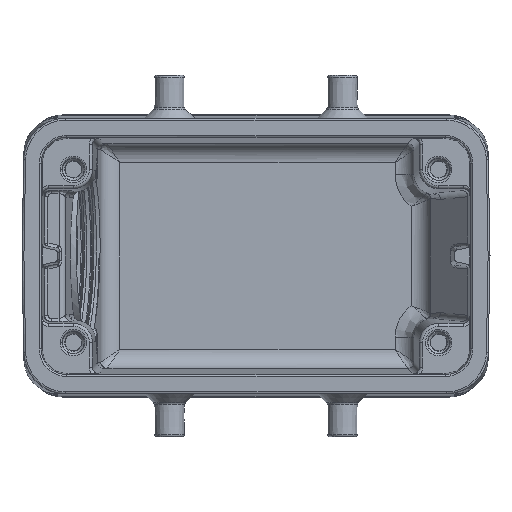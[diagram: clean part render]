
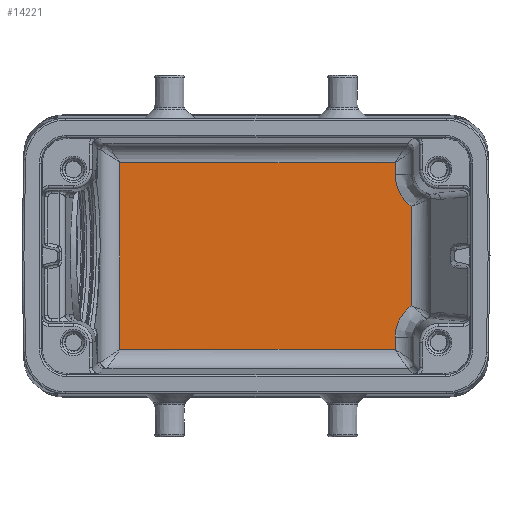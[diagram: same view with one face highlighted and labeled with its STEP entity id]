
A CAD part, front view. The second image highlights one B-rep face of the part: STEP entity #14221.
In plain terms, the highlighted planar face has unit normal (0, -1, 0).
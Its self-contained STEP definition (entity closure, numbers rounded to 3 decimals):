
#341 = FACE_OUTER_BOUND ( 'NONE', #24228, .T. ) ;
#616 = B_SPLINE_CURVE_WITH_KNOTS ( 'NONE', 3,
 ( #16051, #22764, #11942, #13968 ),
 .UNSPECIFIED., .F., .F.,
 ( 4, 4 ),
 ( 0., 1. ),
 .UNSPECIFIED. ) ;
#1135 = CARTESIAN_POINT ( 'NONE',  ( 22.389, 97.598, -9.882 ) ) ;
#1275 = B_SPLINE_CURVE_WITH_KNOTS ( 'NONE', 3,
 ( #25234, #12237, #3387, #27427, #25326, #14452, #12150, #18806, #12337, #27513, #14541, #1135, #22889, #9869, #27252, #14277, #27343 ),
 .UNSPECIFIED., .F., .F.,
 ( 4, 2, 2, 2, 1, 2, 2, 2, 4 ),
 ( 0., 0.25, 0.375, 0.437, 0.469, 0.484, 0.5, 0.75, 1. ),
 .UNSPECIFIED. ) ;
#1745 = VERTEX_POINT ( 'NONE', #15512 ) ;
#2245 = DIRECTION ( 'NONE',  ( 1., 0., 0. ) ) ;
#2505 = ORIENTED_EDGE ( 'NONE', *, *, #19645, .T. ) ;
#2741 = ORIENTED_EDGE ( 'NONE', *, *, #14825, .F. ) ;
#3382 = LINE ( 'NONE', #19654, #20747 ) ;
#3387 = CARTESIAN_POINT ( 'NONE',  ( 23.668, 97.598, -8.214 ) ) ;
#3503 = CARTESIAN_POINT ( 'NONE',  ( 22.287, 97.598, 10.083 ) ) ;
#3651 = CARTESIAN_POINT ( 'NONE',  ( 21.691, 97.598, 0. ) ) ;
#3658 = CARTESIAN_POINT ( 'NONE',  ( -21.227, 97.598, 0. ) ) ;
#3827 = VERTEX_POINT ( 'NONE', #27179 ) ;
#4092 = EDGE_CURVE ( 'NONE', #24298, #5823, #27121, .T. ) ;
#4372 = AXIS2_PLACEMENT_3D ( 'NONE', #20224, #9391, #24376 ) ;
#4680 = CARTESIAN_POINT ( 'NONE',  ( -21.227, 97.598, 14.564 ) ) ;
#4731 = VERTEX_POINT ( 'NONE', #21996 ) ;
#5387 = ORIENTED_EDGE ( 'NONE', *, *, #7888, .F. ) ;
#5601 = CARTESIAN_POINT ( 'NONE',  ( 22.21, 97.598, 10.249 ) ) ;
#5823 = VERTEX_POINT ( 'NONE', #27876 ) ;
#7254 = ORIENTED_EDGE ( 'NONE', *, *, #16247, .F. ) ;
#7704 = CARTESIAN_POINT ( 'NONE',  ( 21.723, 97.598, 11.916 ) ) ;
#7888 = EDGE_CURVE ( 'NONE', #1745, #24298, #9507, .T. ) ;
#9114 = EDGE_CURVE ( 'NONE', #9910, #19236, #27607, .T. ) ;
#9391 = DIRECTION ( 'NONE',  ( 0., 1., 0. ) ) ;
#9507 = LINE ( 'NONE', #3658, #25458 ) ;
#9792 = CARTESIAN_POINT ( 'NONE',  ( 21.939, 97.598, 10.962 ) ) ;
#9869 = CARTESIAN_POINT ( 'NONE',  ( 21.927, 97.598, -10.958 ) ) ;
#9889 = CARTESIAN_POINT ( 'NONE',  ( 23.667, 97.598, 8.215 ) ) ;
#9910 = VERTEX_POINT ( 'NONE', #15369 ) ;
#9978 = CARTESIAN_POINT ( 'NONE',  ( 21.691, 97.598, 12.691 ) ) ;
#10009 = LINE ( 'NONE', #16253, #20899 ) ;
#10064 = CARTESIAN_POINT ( 'NONE',  ( 22.304, 97.598, 10.049 ) ) ;
#10151 = CARTESIAN_POINT ( 'NONE',  ( 22.353, 97.598, 9.95 ) ) ;
#11748 = ORIENTED_EDGE ( 'NONE', *, *, #17752, .F. ) ;
#11942 = CARTESIAN_POINT ( 'NONE',  ( 21.691, 97.598, 13.315 ) ) ;
#12150 = CARTESIAN_POINT ( 'NONE',  ( 22.678, 97.598, -9.391 ) ) ;
#12237 = CARTESIAN_POINT ( 'NONE',  ( 23.987, 97.598, -7.959 ) ) ;
#12337 = CARTESIAN_POINT ( 'NONE',  ( 22.502, 97.598, -9.677 ) ) ;
#12354 = CARTESIAN_POINT ( 'NONE',  ( 24.259, 97.598, 7.77 ) ) ;
#13897 = DIRECTION ( 'NONE',  ( 0., 0., -1. ) ) ;
#13968 = CARTESIAN_POINT ( 'NONE',  ( 21.691, 97.598, 12.691 ) ) ;
#14125 = CARTESIAN_POINT ( 'NONE',  ( 21.691, 97.598, -14.564 ) ) ;
#14221 = ADVANCED_FACE ( 'NONE', ( #341 ), #26481, .F. ) ;
#14277 = CARTESIAN_POINT ( 'NONE',  ( 21.692, 97.598, -12.324 ) ) ;
#14452 = CARTESIAN_POINT ( 'NONE',  ( 22.758, 97.598, -9.272 ) ) ;
#14541 = CARTESIAN_POINT ( 'NONE',  ( 22.408, 97.598, -9.846 ) ) ;
#14813 = ORIENTED_EDGE ( 'NONE', *, *, #15847, .F. ) ;
#14825 = EDGE_CURVE ( 'NONE', #5823, #18856, #616, .T. ) ;
#15102 = ORIENTED_EDGE ( 'NONE', *, *, #4092, .F. ) ;
#15369 = CARTESIAN_POINT ( 'NONE',  ( 21.691, 97.598, -12.691 ) ) ;
#15512 = CARTESIAN_POINT ( 'NONE',  ( -21.227, 97.598, -14.564 ) ) ;
#15847 = EDGE_CURVE ( 'NONE', #18856, #4731, #28107, .T. ) ;
#16051 = CARTESIAN_POINT ( 'NONE',  ( 21.691, 97.598, 14.564 ) ) ;
#16247 = EDGE_CURVE ( 'NONE', #4731, #3827, #10009, .T. ) ;
#16253 = CARTESIAN_POINT ( 'NONE',  ( 24.259, 97.598, 7.77 ) ) ;
#16461 = CARTESIAN_POINT ( 'NONE',  ( 22.663, 97.598, 9.357 ) ) ;
#17752 = EDGE_CURVE ( 'NONE', #3827, #9910, #1275, .T. ) ;
#18641 = CARTESIAN_POINT ( 'NONE',  ( 22.24, 97.598, 10.183 ) ) ;
#18806 = CARTESIAN_POINT ( 'NONE',  ( 22.56, 97.598, -9.58 ) ) ;
#18856 = VERTEX_POINT ( 'NONE', #19321 ) ;
#18893 = DIRECTION ( 'NONE',  ( 0., 0., 1. ) ) ;
#19236 = VERTEX_POINT ( 'NONE', #14125 ) ;
#19321 = CARTESIAN_POINT ( 'NONE',  ( 21.691, 97.598, 12.691 ) ) ;
#19645 = EDGE_CURVE ( 'NONE', #1745, #19236, #3382, .T. ) ;
#19654 = CARTESIAN_POINT ( 'NONE',  ( 131.663, 97.598, -14.564 ) ) ;
#20224 = CARTESIAN_POINT ( 'NONE',  ( 0., 97.598, 0. ) ) ;
#20747 = VECTOR ( 'NONE', #2245, 1000. ) ;
#20814 = CARTESIAN_POINT ( 'NONE',  ( 23.005, 97.598, 8.913 ) ) ;
#20899 = VECTOR ( 'NONE', #13897, 1000. ) ;
#21996 = CARTESIAN_POINT ( 'NONE',  ( 24.259, 97.598, 7.77 ) ) ;
#22764 = CARTESIAN_POINT ( 'NONE',  ( 21.691, 97.598, 13.94 ) ) ;
#22815 = CARTESIAN_POINT ( 'NONE',  ( 21.872, 97.598, 11.21 ) ) ;
#22863 = VECTOR ( 'NONE', #27143, 1000. ) ;
#22889 = CARTESIAN_POINT ( 'NONE',  ( 22.096, 97.598, -10.443 ) ) ;
#22996 = CARTESIAN_POINT ( 'NONE',  ( 23.987, 97.598, 7.96 ) ) ;
#23920 = ORIENTED_EDGE ( 'NONE', *, *, #9114, .F. ) ;
#24228 = EDGE_LOOP ( 'NONE', ( #5387, #2505, #23920, #11748, #7254, #14813, #2741, #15102 ) ) ;
#24298 = VERTEX_POINT ( 'NONE', #4680 ) ;
#24376 = DIRECTION ( 'NONE',  ( 0., 0., 1. ) ) ;
#24978 = CARTESIAN_POINT ( 'NONE',  ( 22.337, 97.598, 9.982 ) ) ;
#25154 = CARTESIAN_POINT ( 'NONE',  ( 22.125, 97.598, 10.447 ) ) ;
#25234 = CARTESIAN_POINT ( 'NONE',  ( 24.259, 97.598, -7.769 ) ) ;
#25250 = CARTESIAN_POINT ( 'NONE',  ( 22.074, 97.598, 10.577 ) ) ;
#25326 = CARTESIAN_POINT ( 'NONE',  ( 23.004, 97.598, -8.935 ) ) ;
#25458 = VECTOR ( 'NONE', #18893, 1000. ) ;
#25746 = VECTOR ( 'NONE', #28005, 1000. ) ;
#25816 = CARTESIAN_POINT ( 'NONE',  ( 0., 97.598, 14.564 ) ) ;
#26481 = PLANE ( 'NONE',  #4372 ) ;
#27121 = LINE ( 'NONE', #25816, #25746 ) ;
#27143 = DIRECTION ( 'NONE',  ( 0., 0., -1. ) ) ;
#27179 = CARTESIAN_POINT ( 'NONE',  ( 24.259, 97.598, -7.769 ) ) ;
#27252 = CARTESIAN_POINT ( 'NONE',  ( 21.725, 97.598, -11.899 ) ) ;
#27343 = CARTESIAN_POINT ( 'NONE',  ( 21.691, 97.598, -12.691 ) ) ;
#27427 = CARTESIAN_POINT ( 'NONE',  ( 23.172, 97.598, -8.737 ) ) ;
#27513 = CARTESIAN_POINT ( 'NONE',  ( 22.446, 97.598, -9.778 ) ) ;
#27537 = CARTESIAN_POINT ( 'NONE',  ( 21.692, 97.598, 12.336 ) ) ;
#27607 = LINE ( 'NONE', #3651, #22863 ) ;
#27876 = CARTESIAN_POINT ( 'NONE',  ( 21.691, 97.598, 14.564 ) ) ;
#28005 = DIRECTION ( 'NONE',  ( 1., 0., 0. ) ) ;
#28107 = B_SPLINE_CURVE_WITH_KNOTS ( 'NONE', 3,
 ( #9978, #27537, #7704, #22815, #9792, #25250, #25154, #5601, #18641, #3503, #10064, #24978, #10151, #16461, #20814, #9889, #22996, #12354 ),
 .UNSPECIFIED., .F., .F.,
 ( 4, 2, 2, 2, 2, 2, 2, 2, 4 ),
 ( 0., 0.25, 0.375, 0.438, 0.469, 0.484, 0.5, 0.75, 1. ),
 .UNSPECIFIED. ) ;
